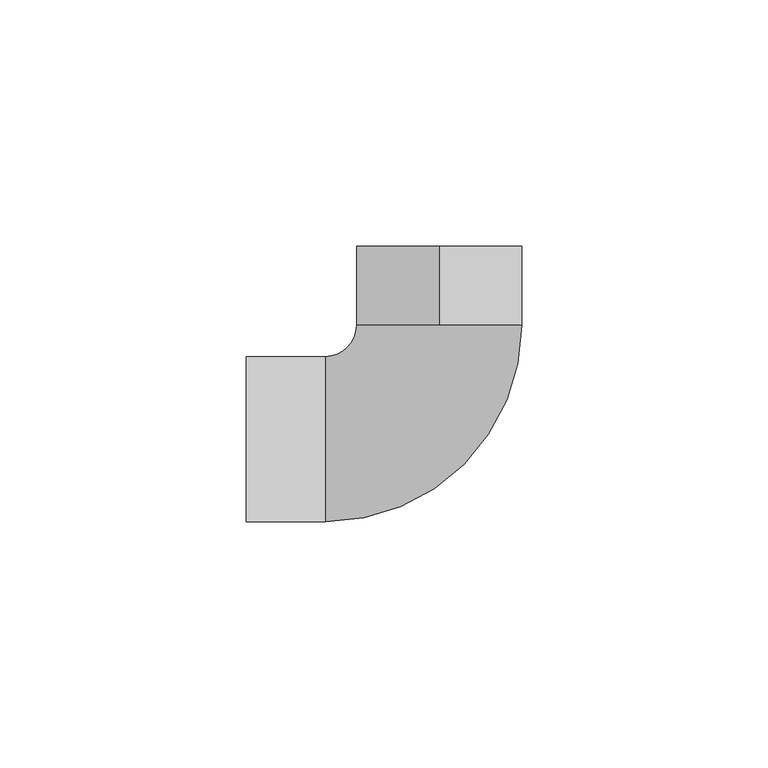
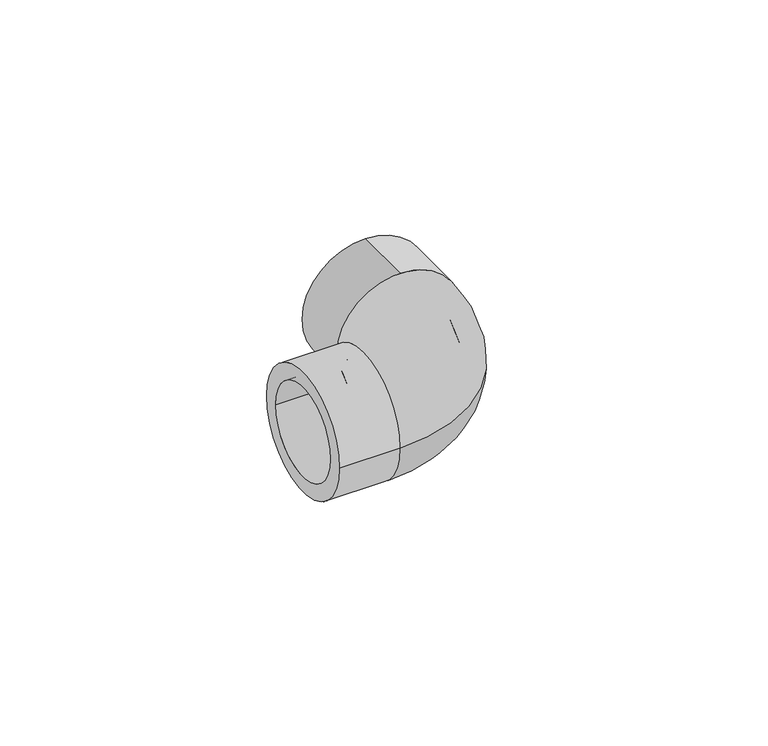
"""IFC4 building model written with IfcOpenShell, lengths in millimetres: pipe fitting geometry, 35_Угольник полипропиленовый 90 : Серый цвет."""

from ifc_helpers import new_model, si_unit, point, frame, origin, place, context, project, spatial, polyline, circle_curve, ellipse_curve, trimmed, source, transform, mapped, element, save
from ifc_brep_helpers import plane_surface, cylinder_surface, revolved_surface, advanced_brep


def pipe_fitting_a1eeb2e2(model_context):
    return source(origin(), model_context, "Body", "AdvancedBrep", [
        advanced_brep(
        [(-39.1, -16.75, 0.0), (-39.1, 16.75, 0.0), (-39.1, -12.5, 0.0), (-39.1, 12.5, 0.0), (-23.1, 16.75, 0.0), (-23.1, -16.75, 0.0), (-23.1, 12.5, 0.0), (-23.1, -12.5, 0.0), (-23.1, -11.0, 0.0), (-23.1, 11.0, 0.0), (0.0, 23.1, 12.5), (0.0, 23.1, -12.5), (11.0, 23.1, 0.0), (-11.0, 23.1, 0.0), (-16.75, 23.1, 0.0), (16.75, 23.1, 0.0), (0.0, 23.1, 16.75), (0.0, 23.1, -16.75), (0.0, 39.1, -16.75), (0.0, 39.1, 16.75), (0.0, 39.1, -12.5), (0.0, 39.1, 12.5)],
        [
            (0, 1, circle_curve(frame((-39.1, 0.0, 0.0), z_axis=(-1.0, 0.0, 0.0), x_axis=(0.0, 1.0, 0.0)), 16.75)),
            (1, 0, circle_curve(frame((-39.1, 0.0, 0.0), z_axis=(-1.0, 0.0, 0.0), x_axis=(0.0, 1.0, 0.0)), 16.75)),
            (2, 3, circle_curve(frame((-39.1, 0.0, 0.0), z_axis=(1.0, 0.0, 0.0), x_axis=(0.0, 1.0, 0.0)), 12.5)),
            (3, 2, circle_curve(frame((-39.1, 0.0, 0.0), z_axis=(1.0, 0.0, 0.0), x_axis=(0.0, 1.0, 0.0)), 12.5)),
            (1, 4),
            (4, 5, circle_curve(frame((-23.1, 0.0, 0.0), z_axis=(-1.0, 0.0, 0.0), x_axis=(0.0, 1.0, 0.0)), 16.75)),
            (5, 0),
            (5, 4, circle_curve(frame((-23.1, 0.0, 0.0), z_axis=(-1.0, 0.0, 0.0), x_axis=(0.0, 1.0, 0.0)), 16.75)),
            (3, 6),
            (6, 7, circle_curve(frame((-23.1, 0.0, 0.0), z_axis=(1.0, 0.0, 0.0), x_axis=(0.0, 1.0, 0.0)), 12.5)),
            (7, 2),
            (7, 6, circle_curve(frame((-23.1, 0.0, 0.0), z_axis=(1.0, 0.0, 0.0), x_axis=(0.0, 1.0, 0.0)), 12.5)),
            (8, 9, circle_curve(frame((-23.1, 0.0, 0.0), z_axis=(1.0, 0.0, 0.0), x_axis=(0.0, 1.0, 0.0)), 11.0)),
            (9, 8, circle_curve(frame((-23.1, 0.0, 0.0), z_axis=(1.0, 0.0, 0.0), x_axis=(0.0, 1.0, 0.0)), 11.0)),
            (10, 11, circle_curve(frame((0.0, 23.1, 0.0), z_axis=(0.0, 1.0, 0.0), x_axis=(0.0, 0.0, 1.0)), 12.5)),
            (11, 10, circle_curve(frame((0.0, 23.1, 0.0), z_axis=(0.0, 1.0, 0.0), x_axis=(0.0, 0.0, 1.0)), 12.5)),
            (12, 13, circle_curve(frame((0.0, 23.1, 0.0), z_axis=(0.0, -1.0, 0.0), x_axis=(-1.0, 0.0, 0.0)), 11.0)),
            (13, 12, circle_curve(frame((0.0, 23.1, 0.0), z_axis=(0.0, -1.0, 0.0), x_axis=(-1.0, 0.0, 0.0)), 11.0)),
            (14, 4, circle_curve(frame((-23.1, 23.1, 0.0), z_axis=(0.0, 0.0, -1.0), x_axis=(0.0, -1.0, 0.0)), 6.35)),
            (5, 15, circle_curve(frame((-23.1, 23.1, 0.0), z_axis=(0.0, 0.0, 1.0), x_axis=(0.0, -1.0, 0.0)), 39.85)),
            (15, 16, circle_curve(frame((0.0, 23.1, 0.0), z_axis=(0.0, -1.0, 0.0), x_axis=(-1.0, 0.0, 0.0)), 16.75)),
            (16, 14, circle_curve(frame((0.0, 23.1, 0.0), z_axis=(0.0, -1.0, 0.0), x_axis=(-1.0, 0.0, 0.0)), 16.75)),
            (14, 17, circle_curve(frame((0.0, 23.1, 0.0), z_axis=(0.0, -1.0, 0.0), x_axis=(-1.0, 0.0, 0.0)), 16.75)),
            (17, 15, circle_curve(frame((0.0, 23.1, 0.0), z_axis=(0.0, -1.0, 0.0), x_axis=(-1.0, 0.0, 0.0)), 16.75)),
            (8, 12, circle_curve(frame((-23.1, 23.1, 0.0), z_axis=(0.0, 0.0, 1.0), x_axis=(0.0, -1.0, 0.0)), 34.1)),
            (13, 9, circle_curve(frame((-23.1, 23.1, 0.0), z_axis=(0.0, 0.0, -1.0), x_axis=(0.0, -1.0, 0.0)), 12.1)),
            (18, 19, circle_curve(frame((0.0, 39.1, 0.0), z_axis=(0.0, 1.0, 0.0), x_axis=(0.0, 0.0, 1.0)), 16.75)),
            (19, 18, circle_curve(frame((0.0, 39.1, 0.0), z_axis=(0.0, 1.0, 0.0), x_axis=(0.0, 0.0, 1.0)), 16.75)),
            (20, 21, circle_curve(frame((0.0, 39.1, 0.0), z_axis=(0.0, -1.0, 0.0), x_axis=(0.0, 0.0, 1.0)), 12.5)),
            (21, 20, circle_curve(frame((0.0, 39.1, 0.0), z_axis=(0.0, -1.0, 0.0), x_axis=(0.0, 0.0, 1.0)), 12.5)),
            (18, 17),
            (16, 19),
            (20, 11),
            (10, 21),
        ],
        [
            plane_surface(frame((-39.1, 16.75, 0.0), z_axis=(-1.0, 0.0, 0.0), x_axis=(0.0, 0.0, -1.0))),
            cylinder_surface(frame((-39.1, 0.0, 0.0), z_axis=(1.0, 0.0, 0.0), x_axis=(0.0, 1.0, 0.0)), 16.75),
            revolved_surface(polyline([(-39.1, 12.5, 0.0), (-23.1, 12.5, 0.0)]), (0.0, 0.0, 0.0), (-1.0, 0.0, 0.0)),
            plane_surface(frame((-23.1, 0.0, 0.0), z_axis=(-1.0, 0.0, 0.0), x_axis=(0.0, 0.0, 1.0))),
            plane_surface(frame((0.0, 23.1, 0.0), z_axis=(0.0, 1.0, 0.0), x_axis=(0.0, 0.0, 1.0))),
            revolved_surface(trimmed(ellipse_curve(frame((-23.1, 0.0, 0.0), z_axis=(-1.0, 0.0, 0.0), x_axis=(0.0, 1.0, 0.0)), 16.75, 16.75), [point((-23.1, -16.75, 0.0))], [point((-23.1, 16.75, 0.0))], True, "CARTESIAN"), (-23.1, 23.1, 0.0), (0.0, 0.0, 1.0)),
            revolved_surface(trimmed(ellipse_curve(frame((-23.1, 0.0, 0.0), z_axis=(-1.0, 0.0, 0.0), x_axis=(0.0, 1.0, 0.0)), 16.75, 16.75), [point((-23.1, 16.75, 0.0))], [point((-23.1, -16.75, 0.0))], True, "CARTESIAN"), (-23.1, 23.1, 0.0), (0.0, 0.0, 1.0)),
            revolved_surface(trimmed(ellipse_curve(frame((-23.1, 0.0, 0.0), z_axis=(1.0, 0.0, 0.0), x_axis=(0.0, 1.0, 0.0)), 11.0, 11.0), [point((-23.1, -11.0, 0.0))], [point((-23.1, 11.0, 0.0))], True, "CARTESIAN"), (-23.1, 23.1, 0.0), (0.0, 0.0, 1.0)),
            revolved_surface(trimmed(ellipse_curve(frame((-23.1, 0.0, 0.0), z_axis=(1.0, 0.0, 0.0), x_axis=(0.0, 1.0, 0.0)), 11.0, 11.0), [point((-23.1, 11.0, 0.0))], [point((-23.1, -11.0, 0.0))], True, "CARTESIAN"), (-23.1, 23.1, 0.0), (0.0, 0.0, 1.0)),
            plane_surface(frame((0.0, 39.1, 16.75), z_axis=(0.0, 1.0, 0.0), x_axis=(1.0, 0.0, 0.0))),
            cylinder_surface(frame((0.0, 23.1, 0.0), z_axis=(0.0, 1.0, 0.0), x_axis=(0.0, 0.0, 1.0)), 16.75),
            revolved_surface(polyline([(0.0, 23.1, 12.5), (0.0, 39.1, 12.5)]), (0.0, 23.1, 0.0), (0.0, -1.0, 0.0)),
        ],
        [
            (0, [[1, 2], [3, 4]]),
            (1, [[-2, 5, 6, 7]]),
            (1, [[-1, -7, 8, -5]]),
            (2, [[-4, 9, 10, 11]]),
            (2, [[-3, -11, 12, -9]]),
            (3, [[-10, -12], [13, 14]]),
            (4, [[15, 16], [17, 18]]),
            (5, [[19, -8, 20, 21, 22]]),
            (6, [[-19, 23, 24, -20, -6]]),
            (7, [[-13, 25, -18, 26]]),
            (8, [[-14, -26, -17, -25]]),
            (9, [[27, 28], [29, 30]]),
            (10, [[-27, 31, -23, -22, 32]]),
            (10, [[-28, -32, -21, -24, -31]]),
            (11, [[-29, 33, -15, 34]]),
            (11, [[-30, -34, -16, -33]]),
        ],
    ),
    ])


if __name__ == "__main__":
    model = new_model("IFC4")
    model_context = context("Model", 3, world=origin())
    ifc_project = project(units=[si_unit("LENGTHUNIT", "METRE", prefix="MILLI")], contexts=[model_context])
    site = spatial("IfcSite", under=ifc_project)
    building = spatial("IfcBuilding", under=site)
    placement = place(None, origin())
    pipe_fitting_shape = pipe_fitting_a1eeb2e2(model_context)
    element("IfcPipeFitting", 1, ObjectType="35_Угольник полипропиленовый 90 : Серый цвет", at=placement, inside=building, context=model_context, shape_type="MappedRepresentation", body=[
        mapped(pipe_fitting_shape, transform((0.0, 0.0, 0.0), x_axis=(1.0, 0.0, 0.0), y_axis=(0.0, 1.0, 0.0), z_axis=(0.0, 0.0, 1.0))),
    ])
    save(model, "model.ifc")
